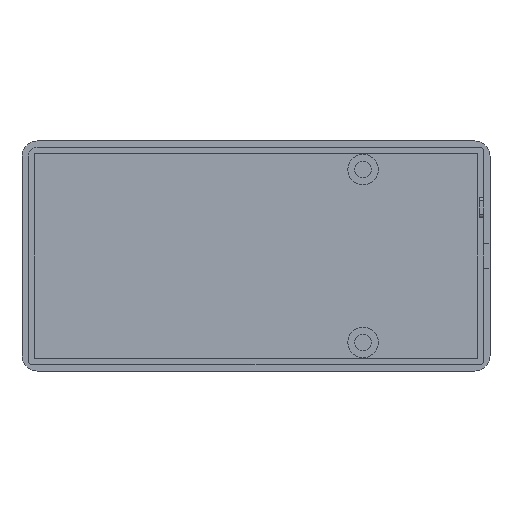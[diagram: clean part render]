
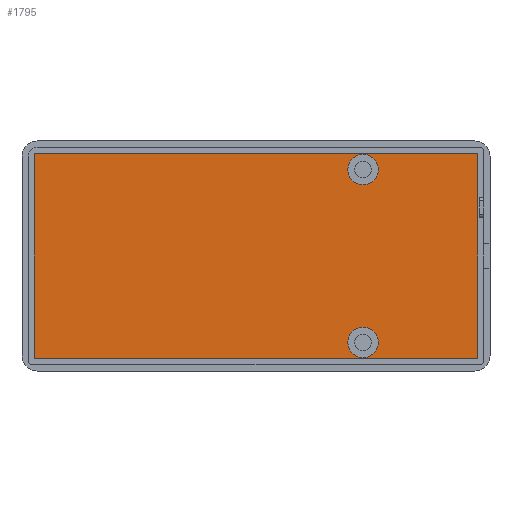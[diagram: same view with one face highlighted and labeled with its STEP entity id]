
A CAD part, front view. The second image highlights one B-rep face of the part: STEP entity #1795.
In plain terms, the highlighted planar face has unit normal (0, -1, 0).
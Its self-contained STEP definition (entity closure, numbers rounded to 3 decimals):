
#61 = DIRECTION ( 'NONE',  ( 0., 0., -1. ) ) ;
#68 = DIRECTION ( 'NONE',  ( 0., -1., 0. ) ) ;
#71 = CIRCLE ( 'NONE', #1454, 2.5 ) ;
#72 = DIRECTION ( 'NONE',  ( 0., 0., -1. ) ) ;
#74 = CARTESIAN_POINT ( 'NONE',  ( -36.25, 4., -16.85 ) ) ;
#75 = CARTESIAN_POINT ( 'NONE',  ( 36.35, 4., 16.75 ) ) ;
#78 = CARTESIAN_POINT ( 'NONE',  ( -36.25, 4., -16.75 ) ) ;
#83 = VERTEX_POINT ( 'NONE', #865 ) ;
#86 = DIRECTION ( 'NONE',  ( 0., -1., 0. ) ) ;
#96 = PLANE ( 'NONE',  #570 ) ;
#98 = CARTESIAN_POINT ( 'NONE',  ( 17.55, 4., 14.15 ) ) ;
#118 = EDGE_CURVE ( 'NONE', #1560, #682, #1231, .T. ) ;
#132 = VERTEX_POINT ( 'NONE', #1117 ) ;
#144 = EDGE_CURVE ( 'NONE', #83, #589, #1022, .T. ) ;
#217 = VERTEX_POINT ( 'NONE', #1635 ) ;
#218 = CARTESIAN_POINT ( 'NONE',  ( 17.55, 4., -11.65 ) ) ;
#232 = CIRCLE ( 'NONE', #1615, 0.1 ) ;
#252 = EDGE_CURVE ( 'NONE', #1773, #1796, #796, .T. ) ;
#256 = EDGE_LOOP ( 'NONE', ( #1398, #1216 ) ) ;
#283 = VERTEX_POINT ( 'NONE', #1331 ) ;
#294 = DIRECTION ( 'NONE',  ( 0., 0., -1. ) ) ;
#300 = DIRECTION ( 'NONE',  ( 0., -1., 0. ) ) ;
#303 = CARTESIAN_POINT ( 'NONE',  ( -36.25, 4., 16.75 ) ) ;
#310 = ORIENTED_EDGE ( 'NONE', *, *, #1299, .F. ) ;
#322 = ORIENTED_EDGE ( 'NONE', *, *, #1561, .T. ) ;
#332 = DIRECTION ( 'NONE',  ( 1., 0., 0. ) ) ;
#357 = CARTESIAN_POINT ( 'NONE',  ( -36.35, 4., -16.75 ) ) ;
#401 = CARTESIAN_POINT ( 'NONE',  ( 36.25, 4., -16.85 ) ) ;
#419 = EDGE_LOOP ( 'NONE', ( #310, #571 ) ) ;
#424 = AXIS2_PLACEMENT_3D ( 'NONE', #613, #510, #566 ) ;
#431 = EDGE_CURVE ( 'NONE', #682, #217, #232, .T. ) ;
#470 = ORIENTED_EDGE ( 'NONE', *, *, #869, .T. ) ;
#491 = EDGE_CURVE ( 'NONE', #132, #283, #71, .T. ) ;
#510 = DIRECTION ( 'NONE',  ( 0., -1., 0. ) ) ;
#520 = AXIS2_PLACEMENT_3D ( 'NONE', #1779, #1770, #1763 ) ;
#531 = LINE ( 'NONE', #401, #534 ) ;
#534 = VECTOR ( 'NONE', #332, 1000. ) ;
#566 = DIRECTION ( 'NONE',  ( 0., 0., -1. ) ) ;
#570 = AXIS2_PLACEMENT_3D ( 'NONE', #78, #68, #61 ) ;
#571 = ORIENTED_EDGE ( 'NONE', *, *, #1607, .F. ) ;
#589 = VERTEX_POINT ( 'NONE', #75 ) ;
#590 = ORIENTED_EDGE ( 'NONE', *, *, #252, .T. ) ;
#613 = CARTESIAN_POINT ( 'NONE',  ( 36.25, 4., -16.75 ) ) ;
#660 = VERTEX_POINT ( 'NONE', #1269 ) ;
#682 = VERTEX_POINT ( 'NONE', #1262 ) ;
#689 = CIRCLE ( 'NONE', #1731, 0.1 ) ;
#716 = DIRECTION ( 'NONE',  ( 0., 0., -1. ) ) ;
#796 = CIRCLE ( 'NONE', #1138, 0.1 ) ;
#825 = CARTESIAN_POINT ( 'NONE',  ( -36.25, 4., 16.85 ) ) ;
#859 = DIRECTION ( 'NONE',  ( -1., 0., 0. ) ) ;
#865 = CARTESIAN_POINT ( 'NONE',  ( 36.35, 4., -16.75 ) ) ;
#869 = EDGE_CURVE ( 'NONE', #1796, #660, #531, .T. ) ;
#905 = CIRCLE ( 'NONE', #1210, 2.5 ) ;
#923 = CIRCLE ( 'NONE', #1642, 2.5 ) ;
#942 = EDGE_CURVE ( 'NONE', #589, #1560, #689, .T. ) ;
#1020 = VECTOR ( 'NONE', #1272, 1000. ) ;
#1022 = LINE ( 'NONE', #1230, #1020 ) ;
#1058 = EDGE_CURVE ( 'NONE', #217, #1773, #1206, .T. ) ;
#1078 = CARTESIAN_POINT ( 'NONE',  ( 17.55, 4., -14.15 ) ) ;
#1086 = VECTOR ( 'NONE', #859, 1000. ) ;
#1103 = DIRECTION ( 'NONE',  ( 0., -1., 0. ) ) ;
#1113 = CARTESIAN_POINT ( 'NONE',  ( 36.25, 4., 16.85 ) ) ;
#1114 = DIRECTION ( 'NONE',  ( 0., 0., -1. ) ) ;
#1117 = CARTESIAN_POINT ( 'NONE',  ( 17.55, 4., 11.65 ) ) ;
#1138 = AXIS2_PLACEMENT_3D ( 'NONE', #1387, #1378, #1370 ) ;
#1155 = ORIENTED_EDGE ( 'NONE', *, *, #942, .T. ) ;
#1183 = VECTOR ( 'NONE', #1114, 1000. ) ;
#1206 = LINE ( 'NONE', #1297, #1183 ) ;
#1210 = AXIS2_PLACEMENT_3D ( 'NONE', #1078, #1103, #716 ) ;
#1216 = ORIENTED_EDGE ( 'NONE', *, *, #491, .F. ) ;
#1230 = CARTESIAN_POINT ( 'NONE',  ( 36.35, 4., 16.75 ) ) ;
#1231 = LINE ( 'NONE', #825, #1086 ) ;
#1262 = CARTESIAN_POINT ( 'NONE',  ( -36.25, 4., 16.85 ) ) ;
#1263 = VERTEX_POINT ( 'NONE', #1672 ) ;
#1269 = CARTESIAN_POINT ( 'NONE',  ( 36.25, 4., -16.85 ) ) ;
#1272 = DIRECTION ( 'NONE',  ( 0., 0., 1. ) ) ;
#1287 = CARTESIAN_POINT ( 'NONE',  ( 36.25, 4., 16.75 ) ) ;
#1297 = CARTESIAN_POINT ( 'NONE',  ( -36.35, 4., -16.75 ) ) ;
#1299 = EDGE_CURVE ( 'NONE', #1793, #1263, #905, .T. ) ;
#1317 = DIRECTION ( 'NONE',  ( 0., -1., 0. ) ) ;
#1321 = EDGE_CURVE ( 'NONE', #283, #132, #923, .T. ) ;
#1331 = CARTESIAN_POINT ( 'NONE',  ( 17.55, 4., 16.65 ) ) ;
#1332 = ORIENTED_EDGE ( 'NONE', *, *, #1058, .T. ) ;
#1370 = DIRECTION ( 'NONE',  ( 0., 0., -1. ) ) ;
#1378 = DIRECTION ( 'NONE',  ( 0., -1., 0. ) ) ;
#1387 = CARTESIAN_POINT ( 'NONE',  ( -36.25, 4., -16.75 ) ) ;
#1398 = ORIENTED_EDGE ( 'NONE', *, *, #1321, .F. ) ;
#1446 = ORIENTED_EDGE ( 'NONE', *, *, #144, .T. ) ;
#1454 = AXIS2_PLACEMENT_3D ( 'NONE', #98, #86, #72 ) ;
#1519 = ORIENTED_EDGE ( 'NONE', *, *, #431, .T. ) ;
#1543 = ORIENTED_EDGE ( 'NONE', *, *, #118, .T. ) ;
#1560 = VERTEX_POINT ( 'NONE', #1113 ) ;
#1561 = EDGE_CURVE ( 'NONE', #660, #83, #1618, .T. ) ;
#1573 = DIRECTION ( 'NONE',  ( 0., 0., -1. ) ) ;
#1584 = CIRCLE ( 'NONE', #520, 2.5 ) ;
#1607 = EDGE_CURVE ( 'NONE', #1263, #1793, #1584, .T. ) ;
#1615 = AXIS2_PLACEMENT_3D ( 'NONE', #303, #300, #294 ) ;
#1618 = CIRCLE ( 'NONE', #424, 0.1 ) ;
#1626 = EDGE_LOOP ( 'NONE', ( #590, #470, #322, #1446, #1155, #1543, #1519, #1332 ) ) ;
#1635 = CARTESIAN_POINT ( 'NONE',  ( -36.35, 4., 16.75 ) ) ;
#1642 = AXIS2_PLACEMENT_3D ( 'NONE', #1751, #1741, #1713 ) ;
#1672 = CARTESIAN_POINT ( 'NONE',  ( 17.55, 4., -16.65 ) ) ;
#1713 = DIRECTION ( 'NONE',  ( 0., 0., -1. ) ) ;
#1731 = AXIS2_PLACEMENT_3D ( 'NONE', #1287, #1317, #1573 ) ;
#1741 = DIRECTION ( 'NONE',  ( 0., -1., 0. ) ) ;
#1751 = CARTESIAN_POINT ( 'NONE',  ( 17.55, 4., 14.15 ) ) ;
#1759 = FACE_BOUND ( 'NONE', #256, .T. ) ;
#1762 = FACE_OUTER_BOUND ( 'NONE', #1626, .T. ) ;
#1763 = DIRECTION ( 'NONE',  ( 0., 0., -1. ) ) ;
#1770 = DIRECTION ( 'NONE',  ( 0., -1., 0. ) ) ;
#1773 = VERTEX_POINT ( 'NONE', #357 ) ;
#1779 = CARTESIAN_POINT ( 'NONE',  ( 17.55, 4., -14.15 ) ) ;
#1787 = FACE_BOUND ( 'NONE', #419, .T. ) ;
#1793 = VERTEX_POINT ( 'NONE', #218 ) ;
#1795 = ADVANCED_FACE ( 'NONE', ( #1787, #1762, #1759 ), #96, .T. ) ;
#1796 = VERTEX_POINT ( 'NONE', #74 ) ;
